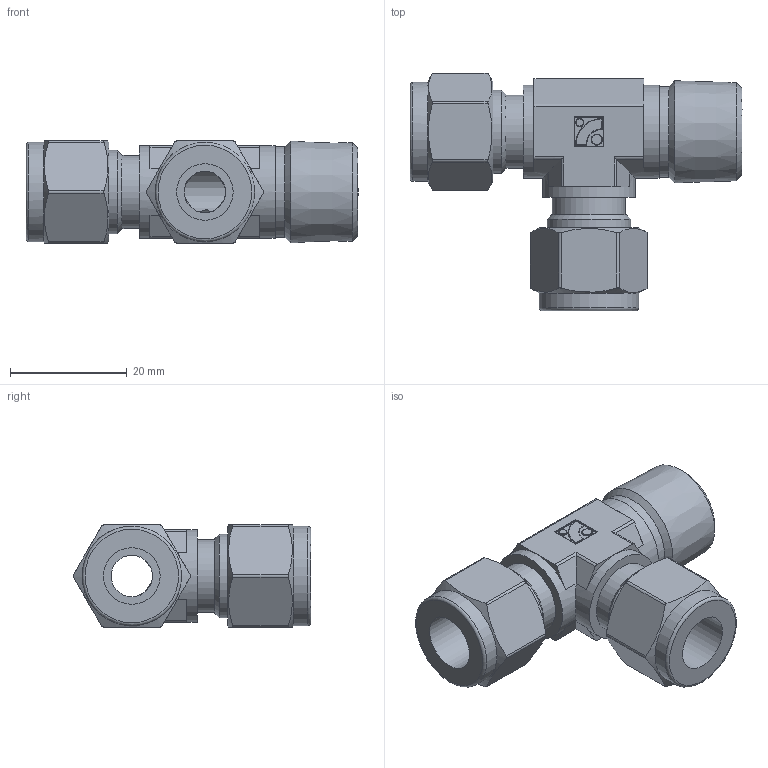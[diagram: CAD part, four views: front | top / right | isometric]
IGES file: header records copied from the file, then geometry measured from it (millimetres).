
Global section: file name: No Iges File Name specified; native system: Autodesk Inventor 2012; preprocessor: AutoDesk Inventor Iges Exporter R2012; author: 硅己绕,, ; organization: 11; date: 20150815.154819; units: millimetre
Bounding box: 56.82 x 40.65 x 17.5 mm (x, y, z)
Volume: 13127 mm3; surface area: 7237.9 mm2
Topology: 1 solids, 1 shells, 135 faces, 311 edges, 191 vertices
Faces by surface type: plane 61, cylinder 42, revolution 17, cone 9, torus 6
Full cylindrical faces by diameter (mm): 1.35 x1, 1.8 x1, 12.5 x2, 14.28 x2, 15.5 x1, 15.88 x3, 17 x2
